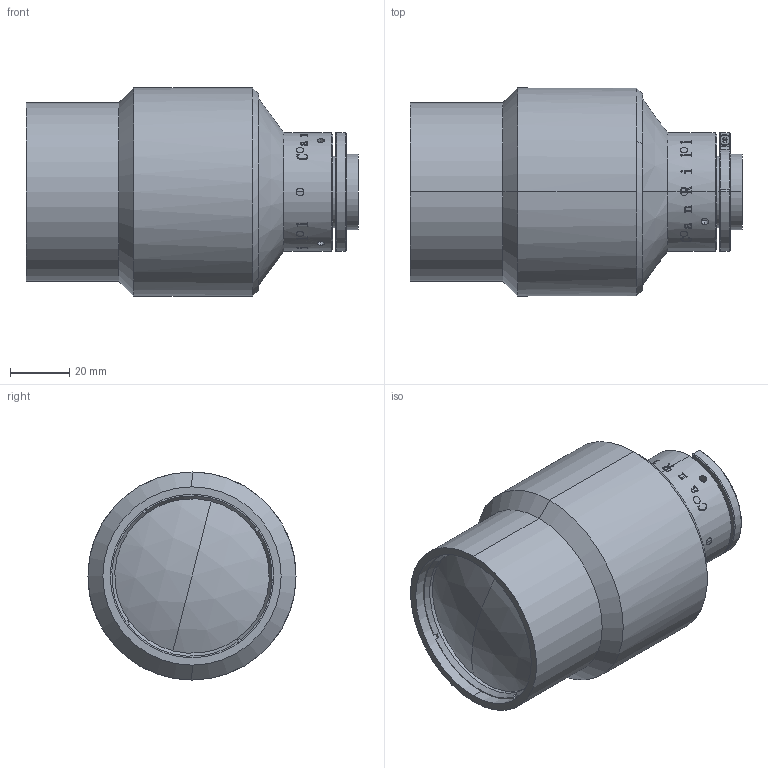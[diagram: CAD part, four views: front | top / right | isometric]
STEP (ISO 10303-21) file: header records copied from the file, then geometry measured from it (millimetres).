
FILE_DESCRIPTION (( 'STEP AP203' ), '1' );
FILE_NAME ('XF-PTL03708-C.STEP', '2020-05-09T05:38:24', ( 'puyufan' ), ( '' ), 'SwSTEP 2.0', 'SolidWorks 2014', '' );
FILE_SCHEMA (( 'CONFIG_CONTROL_DESIGN' ));
Length unit declared in the file: millimetre
Products named in the file (1): XF-PTL03708-C
Bounding box: 111.7 x 70 x 70 mm (x, y, z)
Volume: 299314 mm3; surface area: 35254.4 mm2
Topology: 2 solids, 14 shells, 482 faces, 1246 edges, 816 vertices
Faces by surface type: plane 200, bspline 130, cylinder 116, cone 20, torus 14, sphere 2
Entity records: 31253 total; most frequent: CARTESIAN_POINT 20519, ORIENTED_EDGE 2480, DIRECTION 1766, EDGE_CURVE 1240, VERTEX_POINT 816, AXIS2_PLACEMENT_3D 689, EDGE_LOOP 522, B_SPLINE_CURVE_WITH_KNOTS 516
